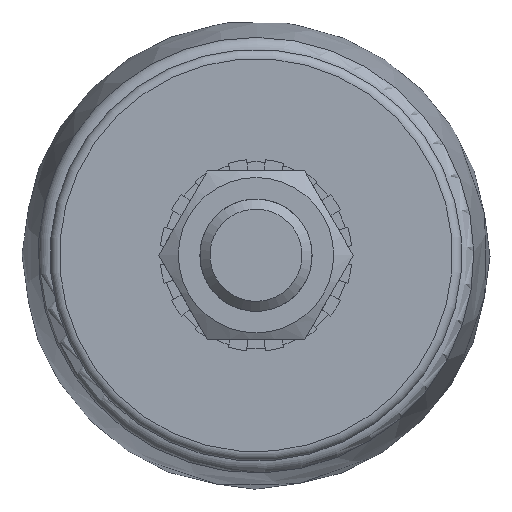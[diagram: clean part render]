
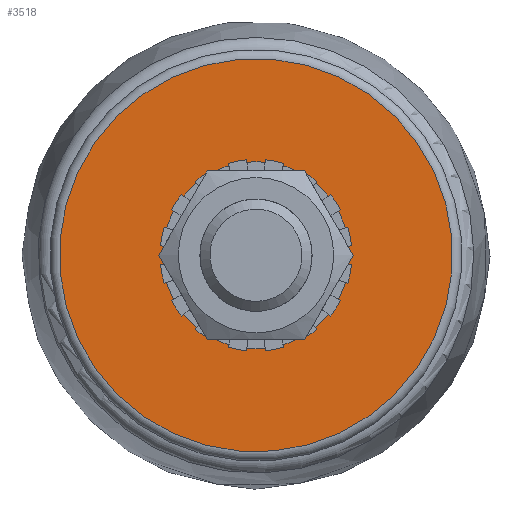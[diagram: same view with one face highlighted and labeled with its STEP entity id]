
A CAD part, front view. The second image highlights one B-rep face of the part: STEP entity #3518.
In plain terms, the highlighted planar face has unit normal (0, -1, 0) as drawn and (0, 1, 0) by its records, which use the part's own axes.
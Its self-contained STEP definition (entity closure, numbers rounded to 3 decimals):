
#722=PLANE('',#3796);
#808=FACE_BOUND('',#1133,.T.);
#897=FACE_OUTER_BOUND('',#1132,.T.);
#1132=EDGE_LOOP('',(#2728));
#1133=EDGE_LOOP('',(#2729));
#1365=CIRCLE('',#3795,21.);
#1366=CIRCLE('',#3797,9.);
#1636=VERTEX_POINT('',#5701);
#1637=VERTEX_POINT('',#5704);
#2044=EDGE_CURVE('',#1636,#1636,#1365,.T.);
#2045=EDGE_CURVE('',#1637,#1637,#1366,.T.);
#2728=ORIENTED_EDGE('',*,*,#2044,.T.);
#2729=ORIENTED_EDGE('',*,*,#2045,.F.);
#3518=ADVANCED_FACE('',(#897,#808),#722,.T.);
#3795=AXIS2_PLACEMENT_3D('',#5702,#4399,#4400);
#3796=AXIS2_PLACEMENT_3D('',#5703,#4401,#4402);
#3797=AXIS2_PLACEMENT_3D('',#5705,#4403,#4404);
#4399=DIRECTION('center_axis',(0.,1.,0.));
#4400=DIRECTION('ref_axis',(-1.,0.,0.));
#4401=DIRECTION('center_axis',(0.,1.,0.));
#4402=DIRECTION('ref_axis',(0.,0.,1.));
#4403=DIRECTION('center_axis',(0.,1.,0.));
#4404=DIRECTION('ref_axis',(-1.,0.,0.));
#5701=CARTESIAN_POINT('',(-21.,2.5,0.));
#5702=CARTESIAN_POINT('Origin',(0.,2.5,0.));
#5703=CARTESIAN_POINT('Origin',(-15.,2.5,0.));
#5704=CARTESIAN_POINT('',(-9.,2.5,0.));
#5705=CARTESIAN_POINT('Origin',(0.,2.5,0.));
